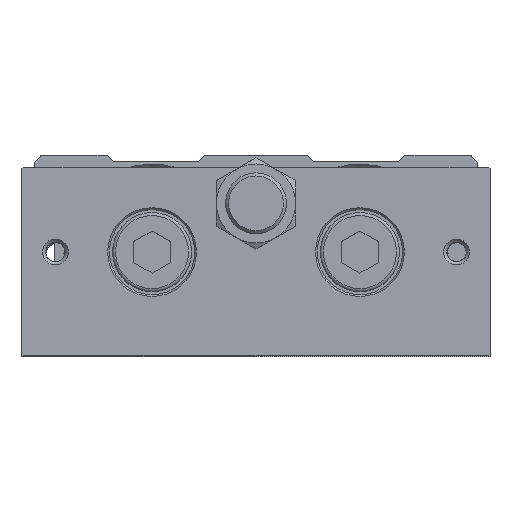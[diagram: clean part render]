
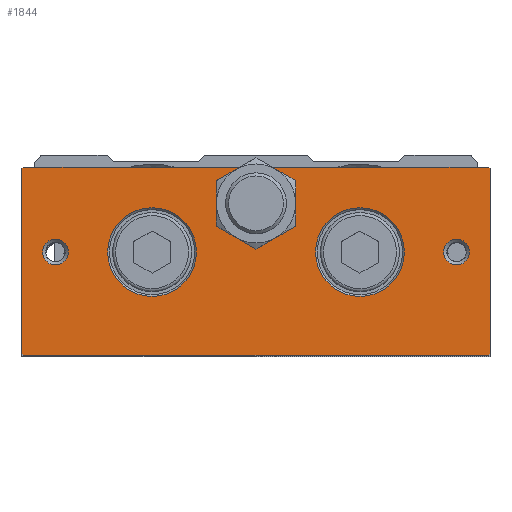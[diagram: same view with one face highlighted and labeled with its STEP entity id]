
A CAD part, top view. The second image highlights one B-rep face of the part: STEP entity #1844.
In plain terms, the highlighted planar face has unit normal (0, 0, 1).
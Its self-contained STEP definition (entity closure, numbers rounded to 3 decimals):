
#1642=CARTESIAN_POINT('',(-38.2,-17.5,104.0));
#1643=VERTEX_POINT('',#1642);
#1650=CARTESIAN_POINT('',(-38.5,-17.2,104.0));
#1651=VERTEX_POINT('',#1650);
#1652=CARTESIAN_POINT('',(-38.2,-17.5,104.0));
#1653=DIRECTION('',(-0.707,0.707,0.0));
#1654=VECTOR('',#1653,0.424);
#1655=LINE('',#1652,#1654);
#1656=EDGE_CURVE('',#1643,#1651,#1655,.T.);
#1667=CARTESIAN_POINT('',(0.0,-17.5,104.0));
#1668=DIRECTION('',(0.0,0.0,1.0));
#1669=DIRECTION('',(1.0,0.0,0.0));
#1670=AXIS2_PLACEMENT_3D('',#1667,#1668,#1669);
#1671=PLANE('',#1670);
#1672=ORIENTED_EDGE('',*,*,#1656,.F.);
#1673=CARTESIAN_POINT('',(38.2,-17.5,104.0));
#1674=VERTEX_POINT('',#1673);
#1675=CARTESIAN_POINT('',(-38.2,-17.5,104.0));
#1676=DIRECTION('',(1.0,0.0,0.0));
#1677=VECTOR('',#1676,76.4);
#1678=LINE('',#1675,#1677);
#1679=EDGE_CURVE('',#1643,#1674,#1678,.T.);
#1680=ORIENTED_EDGE('',*,*,#1679,.T.);
#1681=CARTESIAN_POINT('',(38.5,-17.2,104.0));
#1682=VERTEX_POINT('',#1681);
#1683=CARTESIAN_POINT('',(38.5,-17.2,104.0));
#1684=DIRECTION('',(-0.707,-0.707,0.0));
#1685=VECTOR('',#1684,0.424);
#1686=LINE('',#1683,#1685);
#1687=EDGE_CURVE('',#1682,#1674,#1686,.T.);
#1688=ORIENTED_EDGE('',*,*,#1687,.F.);
#1689=CARTESIAN_POINT('',(38.5,13.2,104.0));
#1690=VERTEX_POINT('',#1689);
#1691=CARTESIAN_POINT('',(38.5,-17.2,104.0));
#1692=DIRECTION('',(0.0,1.0,0.0));
#1693=VECTOR('',#1692,30.4);
#1694=LINE('',#1691,#1693);
#1695=EDGE_CURVE('',#1682,#1690,#1694,.T.);
#1696=ORIENTED_EDGE('',*,*,#1695,.T.);
#1697=CARTESIAN_POINT('',(38.2,13.5,104.0));
#1698=VERTEX_POINT('',#1697);
#1699=CARTESIAN_POINT('',(38.2,13.5,104.0));
#1700=DIRECTION('',(0.707,-0.707,0.0));
#1701=VECTOR('',#1700,0.424);
#1702=LINE('',#1699,#1701);
#1703=EDGE_CURVE('',#1698,#1690,#1702,.T.);
#1704=ORIENTED_EDGE('',*,*,#1703,.F.);
#1705=CARTESIAN_POINT('',(2.5,13.5,104.0));
#1706=VERTEX_POINT('',#1705);
#1707=CARTESIAN_POINT('',(38.2,13.5,104.0));
#1708=DIRECTION('',(-1.0,0.0,0.0));
#1709=VECTOR('',#1708,35.7);
#1710=LINE('',#1707,#1709);
#1711=EDGE_CURVE('',#1698,#1706,#1710,.T.);
#1712=ORIENTED_EDGE('',*,*,#1711,.T.);
#1713=CARTESIAN_POINT('',(3.25,13.129,104.0));
#1714=VERTEX_POINT('',#1713);
#1715=CARTESIAN_POINT('',(0.0,7.5,104.0));
#1716=DIRECTION('',(0.0,0.0,1.0));
#1717=DIRECTION('',(0.0,1.0,0.0));
#1718=AXIS2_PLACEMENT_3D('',#1715,#1716,#1717);
#1719=CIRCLE('',#1718,6.5);
#1720=EDGE_CURVE('',#1714,#1706,#1719,.T.);
#1721=ORIENTED_EDGE('',*,*,#1720,.F.);
#1722=CARTESIAN_POINT('',(6.5,7.5,104.0));
#1723=VERTEX_POINT('',#1722);
#1724=CARTESIAN_POINT('',(0.0,7.5,104.0));
#1725=DIRECTION('',(0.0,0.0,1.0));
#1726=DIRECTION('',(0.0,1.0,0.0));
#1727=AXIS2_PLACEMENT_3D('',#1724,#1725,#1726);
#1728=CIRCLE('',#1727,6.5);
#1729=EDGE_CURVE('',#1723,#1714,#1728,.T.);
#1730=ORIENTED_EDGE('',*,*,#1729,.F.);
#1731=CARTESIAN_POINT('',(3.25,1.871,104.0));
#1732=VERTEX_POINT('',#1731);
#1733=CARTESIAN_POINT('',(0.0,7.5,104.0));
#1734=DIRECTION('',(0.0,0.0,1.0));
#1735=DIRECTION('',(0.0,1.0,0.0));
#1736=AXIS2_PLACEMENT_3D('',#1733,#1734,#1735);
#1737=CIRCLE('',#1736,6.5);
#1738=EDGE_CURVE('',#1732,#1723,#1737,.T.);
#1739=ORIENTED_EDGE('',*,*,#1738,.F.);
#1740=CARTESIAN_POINT('',(-3.25,1.871,104.0));
#1741=VERTEX_POINT('',#1740);
#1742=CARTESIAN_POINT('',(0.0,7.5,104.0));
#1743=DIRECTION('',(0.0,0.0,1.0));
#1744=DIRECTION('',(0.0,1.0,0.0));
#1745=AXIS2_PLACEMENT_3D('',#1742,#1743,#1744);
#1746=CIRCLE('',#1745,6.5);
#1747=EDGE_CURVE('',#1741,#1732,#1746,.T.);
#1748=ORIENTED_EDGE('',*,*,#1747,.F.);
#1749=CARTESIAN_POINT('',(-6.5,7.5,104.0));
#1750=VERTEX_POINT('',#1749);
#1751=CARTESIAN_POINT('',(0.0,7.5,104.0));
#1752=DIRECTION('',(0.0,0.0,1.0));
#1753=DIRECTION('',(0.0,1.0,0.0));
#1754=AXIS2_PLACEMENT_3D('',#1751,#1752,#1753);
#1755=CIRCLE('',#1754,6.5);
#1756=EDGE_CURVE('',#1750,#1741,#1755,.T.);
#1757=ORIENTED_EDGE('',*,*,#1756,.F.);
#1758=CARTESIAN_POINT('',(-3.25,13.129,104.0));
#1759=VERTEX_POINT('',#1758);
#1760=CARTESIAN_POINT('',(0.0,7.5,104.0));
#1761=DIRECTION('',(0.0,0.0,1.0));
#1762=DIRECTION('',(0.0,1.0,0.0));
#1763=AXIS2_PLACEMENT_3D('',#1760,#1761,#1762);
#1764=CIRCLE('',#1763,6.5);
#1765=EDGE_CURVE('',#1759,#1750,#1764,.T.);
#1766=ORIENTED_EDGE('',*,*,#1765,.F.);
#1767=CARTESIAN_POINT('',(-2.5,13.5,104.0));
#1768=VERTEX_POINT('',#1767);
#1769=CARTESIAN_POINT('',(0.0,7.5,104.0));
#1770=DIRECTION('',(0.0,0.0,1.0));
#1771=DIRECTION('',(0.0,1.0,0.0));
#1772=AXIS2_PLACEMENT_3D('',#1769,#1770,#1771);
#1773=CIRCLE('',#1772,6.5);
#1774=EDGE_CURVE('',#1768,#1759,#1773,.T.);
#1775=ORIENTED_EDGE('',*,*,#1774,.F.);
#1776=CARTESIAN_POINT('',(-38.2,13.5,104.0));
#1777=VERTEX_POINT('',#1776);
#1778=CARTESIAN_POINT('',(-2.5,13.5,104.0));
#1779=DIRECTION('',(-1.0,0.0,0.0));
#1780=VECTOR('',#1779,35.7);
#1781=LINE('',#1778,#1780);
#1782=EDGE_CURVE('',#1768,#1777,#1781,.T.);
#1783=ORIENTED_EDGE('',*,*,#1782,.T.);
#1784=CARTESIAN_POINT('',(-38.5,13.2,104.0));
#1785=VERTEX_POINT('',#1784);
#1786=CARTESIAN_POINT('',(-38.5,13.2,104.0));
#1787=DIRECTION('',(0.707,0.707,0.0));
#1788=VECTOR('',#1787,0.424);
#1789=LINE('',#1786,#1788);
#1790=EDGE_CURVE('',#1785,#1777,#1789,.T.);
#1791=ORIENTED_EDGE('',*,*,#1790,.F.);
#1792=CARTESIAN_POINT('',(-38.5,13.2,104.0));
#1793=DIRECTION('',(0.0,-1.0,0.0));
#1794=VECTOR('',#1793,30.4);
#1795=LINE('',#1792,#1794);
#1796=EDGE_CURVE('',#1785,#1651,#1795,.T.);
#1797=ORIENTED_EDGE('',*,*,#1796,.T.);
#1798=EDGE_LOOP('',(#1672,#1680,#1688,#1696,#1704,#1712,#1721,#1730,#1739,#1748,#1757,#1766,#1775,#1783,#1791,#1797));
#1799=FACE_OUTER_BOUND('',#1798,.T.);
#1800=CARTESIAN_POINT('',(-9.8,-0.5,104.0));
#1801=VERTEX_POINT('',#1800);
#1802=CARTESIAN_POINT('',(-17.1,-0.5,104.0));
#1803=DIRECTION('',(0.0,0.0,1.0));
#1804=DIRECTION('',(-1.0,0.0,0.0));
#1805=AXIS2_PLACEMENT_3D('',#1802,#1803,#1804);
#1806=CIRCLE('',#1805,7.3);
#1807=EDGE_CURVE('',#1801,#1801,#1806,.T.);
#1808=ORIENTED_EDGE('',*,*,#1807,.F.);
#1809=EDGE_LOOP('',(#1808));
#1810=FACE_BOUND('',#1809,.T.);
#1811=CARTESIAN_POINT('',(35.121,-0.5,104.0));
#1812=VERTEX_POINT('',#1811);
#1813=CARTESIAN_POINT('',(33.0,-0.5,104.0));
#1814=DIRECTION('',(0.0,0.0,1.0));
#1815=DIRECTION('',(-1.0,0.0,0.0));
#1816=AXIS2_PLACEMENT_3D('',#1813,#1814,#1815);
#1817=CIRCLE('',#1816,2.121);
#1818=EDGE_CURVE('',#1812,#1812,#1817,.T.);
#1819=ORIENTED_EDGE('',*,*,#1818,.F.);
#1820=EDGE_LOOP('',(#1819));
#1821=FACE_BOUND('',#1820,.T.);
#1822=CARTESIAN_POINT('',(-30.879,-0.5,104.0));
#1823=VERTEX_POINT('',#1822);
#1824=CARTESIAN_POINT('',(-33.0,-0.5,104.0));
#1825=DIRECTION('',(0.0,0.0,1.0));
#1826=DIRECTION('',(-1.0,0.0,0.0));
#1827=AXIS2_PLACEMENT_3D('',#1824,#1825,#1826);
#1828=CIRCLE('',#1827,2.121);
#1829=EDGE_CURVE('',#1823,#1823,#1828,.T.);
#1830=ORIENTED_EDGE('',*,*,#1829,.F.);
#1831=EDGE_LOOP('',(#1830));
#1832=FACE_BOUND('',#1831,.T.);
#1833=CARTESIAN_POINT('',(24.4,-0.5,104.0));
#1834=VERTEX_POINT('',#1833);
#1835=CARTESIAN_POINT('',(17.1,-0.5,104.0));
#1836=DIRECTION('',(0.0,0.0,1.0));
#1837=DIRECTION('',(-1.0,0.0,0.0));
#1838=AXIS2_PLACEMENT_3D('',#1835,#1836,#1837);
#1839=CIRCLE('',#1838,7.3);
#1840=EDGE_CURVE('',#1834,#1834,#1839,.T.);
#1841=ORIENTED_EDGE('',*,*,#1840,.F.);
#1842=EDGE_LOOP('',(#1841));
#1843=FACE_BOUND('',#1842,.T.);
#1844=ADVANCED_FACE('',(#1799,#1810,#1821,#1832,#1843),#1671,.T.);
